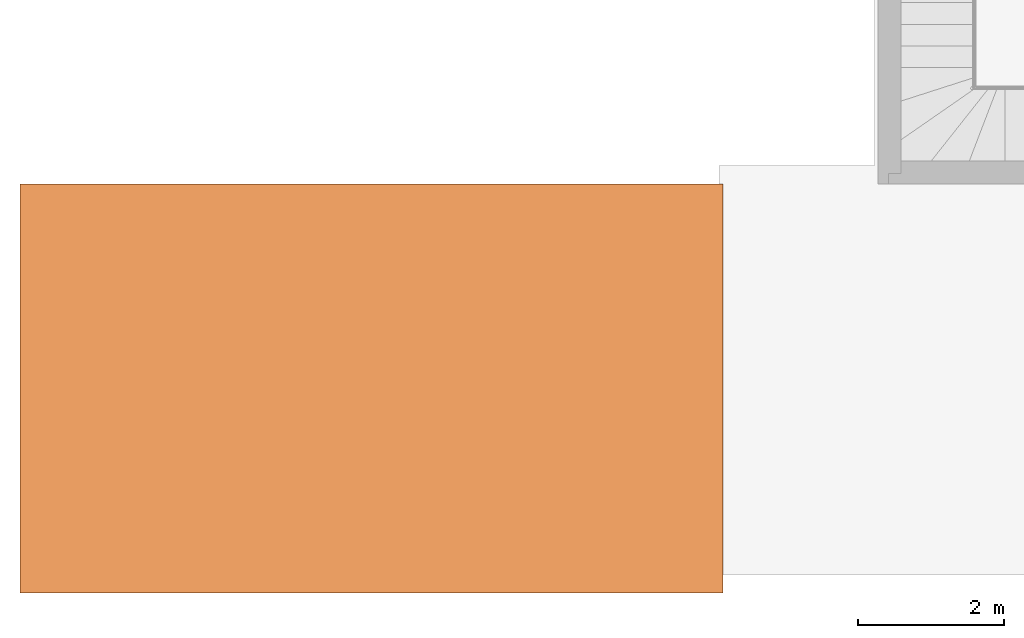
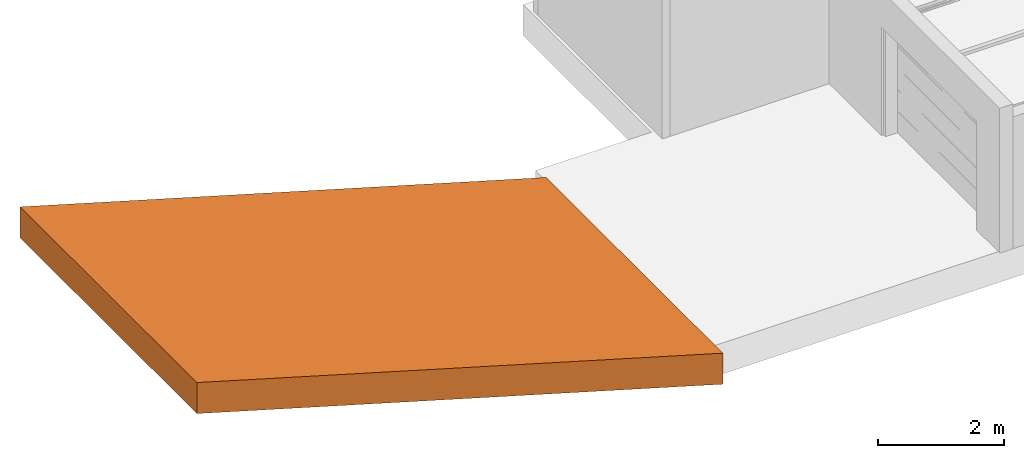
# One storey, part 2 of 5: 1 proxy.
"""IFC4 building model written with IfcOpenShell, lengths in metres."""

import ifcopenshell
import ifcopenshell.guid

model = None  # the IFC model being written
_history = None  # IfcOwnerHistory: only IFC2X3 demands one
_inside = {}  # id of a spatial element -> (the spatial element, [elements in it])
_under = {}  # id of a project, library or spatial element -> (it, [spatial elements below it])
_declared = {}  # id of a project -> (the project, [libraries it declares])
_typed = {}  # id of a type object -> (the type object, [elements of that type])
_made_of = {}  # id of a material, layer set ... -> (it, [elements and type objects made of it])


def new_model(schema):
    """Start an empty IFC model of exactly this schema.

    Asked for "IFC4X3", IfcOpenShell would pick the latest addendum, in which some entities
    have other attributes; the version numbers below select the first issue.
    IFC2X3 requires an IfcOwnerHistory on every rooted entity: one is made here for all.
    """
    global model, _history
    if schema == "IFC4X3":
        model = ifcopenshell.file(schema_version=(4, 3, 0, 0))
    else:
        model = ifcopenshell.file(schema=schema)
    _inside.clear()
    _under.clear()
    _declared.clear()
    _typed.clear()
    _made_of.clear()
    _history = None
    if model.schema == "IFC2X3":
        org = make("IfcOrganization", Name="unknown")
        user = make(
            "IfcPersonAndOrganization",
            ThePerson=make("IfcPerson", FamilyName="unknown"),
            TheOrganization=org,
        )
        app = make(
            "IfcApplication",
            ApplicationDeveloper=org,
            Version="unknown",
            ApplicationFullName="unknown",
            ApplicationIdentifier="unknown",
        )
        _history = make(
            "IfcOwnerHistory",
            OwningUser=user,
            OwningApplication=app,
            ChangeAction="ADDED",
            CreationDate=0,
        )
    return model


def make(cls, **values):
    """One entity of the class cls with the attributes given. An attribute that is None is left unset."""
    return model.create_entity(
        cls, **{name: value for name, value in values.items() if value is not None}
    )


def entity(cls, *values):
    """Any entity or typed value of the class cls, its attributes in the order of the schema. None: left unset."""
    e = model.create_entity(cls)
    for i, value in enumerate(values):
        if value is not None:
            e[i] = value
    return e


def rooted(cls, **values):
    """An entity with a GlobalId (a new one), such as an element, a storey or a relation."""
    return make(cls, GlobalId=ifcopenshell.guid.new(), OwnerHistory=_history, **values)


def si_unit(unit_type, name, prefix=None):
    """IfcSIUnit, for example si_unit("LENGTHUNIT", "METRE", prefix="MILLI")."""
    return make("IfcSIUnit", UnitType=unit_type, Prefix=prefix, Name=name)


def converted_unit(unit_type, name, factor, base, dimensions=None, offset=None):
    """IfcConversionBasedUnit, such as the inch: factor (a typed value) times the base unit."""
    return make(
        "IfcConversionBasedUnit"
        if offset is None
        else "IfcConversionBasedUnitWithOffset",
        ConversionOffset=offset,
        Dimensions=None
        if dimensions is None
        else entity("IfcDimensionalExponents", *dimensions),
        UnitType=unit_type,
        Name=name,
        ConversionFactor=make(
            "IfcMeasureWithUnit", ValueComponent=factor, UnitComponent=base
        ),
    )


def derived_unit(unit_type, elements):
    """IfcDerivedUnit: a product of units, each with its exponent."""
    return make(
        "IfcDerivedUnit",
        Elements=[
            make("IfcDerivedUnitElement", Unit=unit, Exponent=power)
            for unit, power in elements
        ],
        UnitType=unit_type,
    )


def assignment(units):
    """IfcUnitAssignment: the units of a project."""
    return None if units is None else make("IfcUnitAssignment", Units=units)


def point(xyz):
    """IfcCartesianPoint."""
    return None if xyz is None else make("IfcCartesianPoint", Coordinates=xyz)


def direction(xyz):
    """IfcDirection."""
    return None if xyz is None else make("IfcDirection", DirectionRatios=xyz)


def frame(location, z_axis=None, x_axis=None):
    """IfcAxis2Placement3D, a coordinate frame: its origin and axes. An axis left out is left unset."""
    return make(
        "IfcAxis2Placement3D",
        Location=point(location),
        Axis=direction(z_axis),
        RefDirection=direction(x_axis),
    )


def origin_with_axes():
    """The frame at (0, 0, 0) with the z axis (0, 0, 1) and the x axis (1, 0, 0) written out."""
    return frame((0.0, 0.0, 0.0), z_axis=(0.0, 0.0, 1.0), x_axis=(1.0, 0.0, 0.0))


def place(relative_to, where):
    """IfcLocalPlacement: puts the frame where relative to a parent placement (None: the world)."""
    return make(
        "IfcLocalPlacement", PlacementRelTo=relative_to, RelativePlacement=where
    )


def context(
    kind, dimensions, precision=None, world=None, true_north=None, identifier=None
):
    """IfcGeometricRepresentationContext, for example the 3D "Model" context."""
    return make(
        "IfcGeometricRepresentationContext",
        ContextIdentifier=identifier,
        ContextType=kind,
        CoordinateSpaceDimension=dimensions,
        Precision=precision,
        WorldCoordinateSystem=world,
        TrueNorth=true_north,
    )


def subcontext(parent, identifier, kind, view, scale=None):
    """IfcGeometricRepresentationSubContext, for example "Body" below "Model"."""
    return make(
        "IfcGeometricRepresentationSubContext",
        ContextIdentifier=identifier,
        ContextType=kind,
        ParentContext=parent,
        TargetScale=scale,
        TargetView=view,
    )


def project(units=None, contexts=None):
    """IfcProject with its units and contexts."""
    return rooted(
        "IfcProject",
        Name="project",
        RepresentationContexts=contexts,
        UnitsInContext=assignment(units),
    )


def spatial(cls, under=None, at=None, **own):
    """A site, building, storey or space (cls), placed at a placement, below another one or the project."""
    s = rooted(cls, ObjectPlacement=at, **own)
    if under is not None:
        _under.setdefault(under.id(), (under, []))[1].append(s)
    return s


def point_list(points):
    """IfcCartesianPointList2D or 3D."""
    cls = (
        "IfcCartesianPointList2D" if len(points[0]) == 2 else "IfcCartesianPointList3D"
    )
    return make(cls, CoordList=points)


def triangles(points, corners, closed=None, point_numbers=None):
    """IfcTriangulatedFaceSet: each triangle names its three corners, points numbered from 1."""
    return make(
        "IfcTriangulatedFaceSet",
        Coordinates=point_list(points),
        Closed=closed,
        CoordIndex=corners,
        PnIndex=point_numbers,
    )


def shape(context_of_items, identifier, shape_type, items):
    """IfcShapeRepresentation: the items that make up one representation, for example the "Body"."""
    return make(
        "IfcShapeRepresentation",
        ContextOfItems=context_of_items,
        RepresentationIdentifier=identifier,
        RepresentationType=shape_type,
        Items=items,
    )


def material(Name=None, Category=None):
    """IfcMaterial."""
    return make("IfcMaterial", Name=Name, Category=Category)


def made_of(thing, what):
    """Note that an element or type object is made of a material, layer set ...; save() writes the relation."""
    if what is not None:
        _made_of.setdefault(what.id(), (what, []))[1].append(thing)
    return thing


def type_object(cls, material=None, **own):
    """A type object (cls), such as IfcWallType, which elements share."""
    return made_of(rooted(cls, **own), material)


def element(
    cls,
    number,
    at=None,
    inside=None,
    cuts=None,
    type_object=None,
    material=None,
    context=None,
    identifier="Body",
    shape_type=None,
    held_by="IfcProductDefinitionShape",
    body=None,
    shapes=None,
    **own,
):
    """One element of the class cls, such as IfcWall. Its Tag is "e" and its number.

    at: its placement. inside: the storey or other place that contains it. cuts: it is an
    opening in that element (IfcRelVoidsElement). A single representation is given by context,
    identifier, shape_type and body (its items); several are given by shapes. held_by: the class
    of the entity that holds the representations. save() writes the other relations.
    """
    e = rooted(cls, Tag="e%d" % number, ObjectPlacement=at, **own)
    if body is not None:
        shapes = [shape(context, identifier, shape_type, body)]
    if shapes is not None:
        e.Representation = make(held_by, Representations=shapes)
    if inside is not None:
        _inside.setdefault(inside.id(), (inside, []))[1].append(e)
    if cuts is not None:
        rooted(
            "IfcRelVoidsElement", RelatingBuildingElement=cuts, RelatedOpeningElement=e
        )
    if type_object is not None:
        _typed.setdefault(type_object.id(), (type_object, []))[1].append(e)
    return made_of(e, material)


def aggregate(whole, parts):
    """IfcRelAggregates: a whole, such as a stair, and the parts it consists of."""
    return rooted("IfcRelAggregates", RelatingObject=whole, RelatedObjects=parts)


def save(model, path):
    """Write the relations noted so far, then the file.

    IfcRelAggregates (storeys below a building ...), IfcRelContainedInSpatialStructure (elements
    in a storey), IfcRelDefinesByType, IfcRelAssociatesMaterial and IfcRelDeclares: one each for
    every whole, place, type object, material and project.
    """
    for whole, parts in _under.values():
        aggregate(whole, parts)
    for where, things in _inside.values():
        rooted(
            "IfcRelContainedInSpatialStructure",
            RelatedElements=things,
            RelatingStructure=where,
        )
    for kind, things in _typed.values():
        rooted("IfcRelDefinesByType", RelatedObjects=things, RelatingType=kind)
    for what, things in _made_of.values():
        rooted("IfcRelAssociatesMaterial", RelatedObjects=things, RelatingMaterial=what)
    for by, libraries in _declared.values():
        rooted("IfcRelDeclares", RelatingContext=by, RelatedDefinitions=libraries)
    model.write(path)


model = new_model("IFC4")

# Units and contexts
model_context = context("Model", 3, precision=1e-05, world=origin_with_axes(), true_north=direction((-0.526213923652, 0.850352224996)))
body_context = subcontext(model_context, "Body", "Model", "MODEL_VIEW")
ifc_project = project(units=[si_unit("LENGTHUNIT", "METRE"), si_unit("AREAUNIT", "SQUARE_METRE"), si_unit("VOLUMEUNIT", "CUBIC_METRE"), converted_unit("PLANEANGLEUNIT", "DEGREE", entity("IfcPlaneAngleMeasure", 0.0174532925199), si_unit("PLANEANGLEUNIT", "RADIAN"), dimensions=[0, 0, 0, 0, 0, 0, 0]), si_unit("SOLIDANGLEUNIT", "STERADIAN"), converted_unit("TIMEUNIT", "Year", entity("IfcTimeMeasure", 31556926.0), si_unit("TIMEUNIT", "SECOND"), dimensions=[0, 0, 1, 0, 0, 0, 0]), si_unit("MASSUNIT", "GRAM", prefix="KILO"), si_unit("THERMODYNAMICTEMPERATUREUNIT", "DEGREE_CELSIUS"), si_unit("LUMINOUSINTENSITYUNIT", "LUMEN"), si_unit("ENERGYUNIT", "JOULE", prefix="MEGA"), derived_unit("THERMALCONDUCTANCEUNIT", [(si_unit("POWERUNIT", "WATT"), 1), (si_unit("LENGTHUNIT", "METRE"), -1), (si_unit("THERMODYNAMICTEMPERATUREUNIT", "KELVIN"), -1)]), derived_unit("SPECIFICHEATCAPACITYUNIT", [(si_unit("ENERGYUNIT", "JOULE"), 1), (si_unit("MASSUNIT", "GRAM", prefix="KILO"), -1), (si_unit("THERMODYNAMICTEMPERATUREUNIT", "KELVIN"), -1)]), derived_unit("MASSDENSITYUNIT", [(si_unit("MASSUNIT", "GRAM", prefix="KILO"), 1), (si_unit("VOLUMEUNIT", "CUBIC_METRE"), -1)])], contexts=[model_context])

# Site, building, storey
site_placement = place(None, origin_with_axes())
site = spatial("IfcSite", under=ifc_project, at=site_placement, Name="Gelände", CompositionType="ELEMENT")
building_placement = place(site_placement, origin_with_axes())
building = spatial("IfcBuilding", under=site, at=building_placement, Name="Haus vom Nikolaus", CompositionType="ELEMENT")
storey_placement = place(building_placement, frame((0.0, 0.0, -2.8), z_axis=(0.0, 0.0, 1.0), x_axis=(1.0, 0.0, 0.0)))
storey = spatial("IfcBuildingStorey", under=building, at=storey_placement, Name="-1. Geschoss", CompositionType="ELEMENT", Elevation=-2.8)

# Proxy
ifc_material = material(Name="Beton, Stahlbeton C20/25")
building_element_proxy_type = type_object("IfcBuildingElementProxyType", Name="Beton, Stahlbeton C20/25", PredefinedType="NOTDEFINED")
proxy_placement = place(storey_placement, frame((-14.8021386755, 5.40483205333, 2.8), z_axis=(0.0, 0.0, 1.0), x_axis=(1.0, 0.0, 0.0)))
element("IfcBuildingElementProxy", 1, at=proxy_placement, inside=storey, type_object=building_element_proxy_type, material=ifc_material, Name="Morph-022", PredefinedType="NOTDEFINED", context=body_context, shape_type="Tessellation", body=[
    triangles([(9.62175182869, 0.0, -3.4), (0.0, -5.60499999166, -0.6), (0.0, 0.0, -0.6), (0.0, -5.60499999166, 0.0), (0.0, 0.0, 0.0), (9.62175182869, 0.0, -2.8), (9.62175182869, -5.60499999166, -3.4), (9.62175182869, -5.60499999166, -2.8)], [[1, 2, 3], [4, 3, 2], [4, 5, 3], [5, 6, 3], [1, 3, 6], [1, 7, 2], [8, 2, 7], [2, 8, 4], [6, 5, 4], [1, 8, 7], [1, 6, 8], [6, 4, 8]], closed=True),
])

save(model, "model.ifc")
